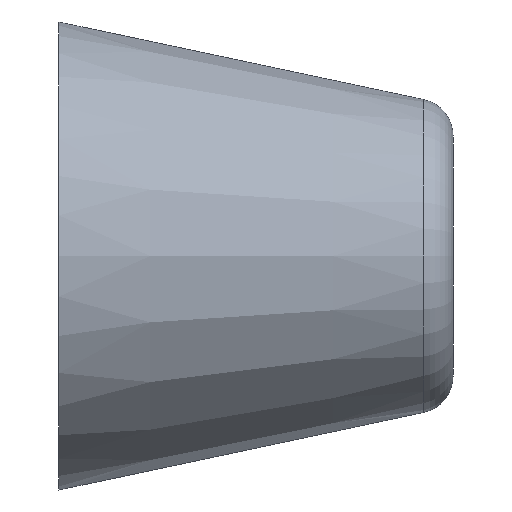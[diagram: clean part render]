
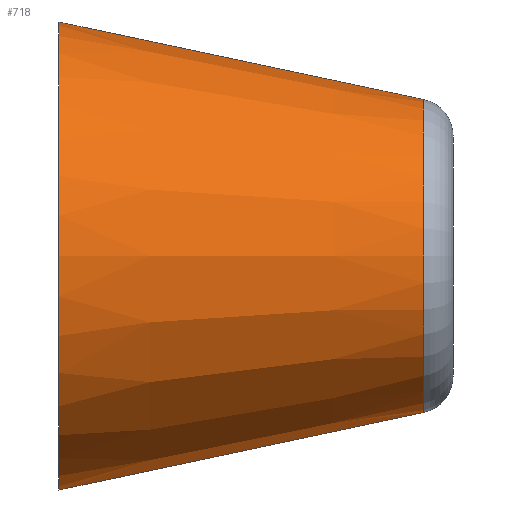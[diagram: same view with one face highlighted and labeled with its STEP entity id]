
A CAD part, left-side view. The second image highlights one B-rep face of the part: STEP entity #718.
In plain terms, the highlighted conical face has half-angle 11.997 degrees and reference radius 6.1 mm.
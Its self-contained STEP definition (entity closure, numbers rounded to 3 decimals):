
#8 = LINE ( 'NONE', #264, #352 ) ;
#31 = EDGE_CURVE ( 'NONE', #621, #316, #242, .T. ) ;
#38 = FACE_OUTER_BOUND ( 'NONE', #329, .T. ) ;
#63 = VERTEX_POINT ( 'NONE', #722 ) ;
#82 = CARTESIAN_POINT ( 'NONE',  ( 0., 16., 9.5 ) ) ;
#88 = CIRCLE ( 'NONE', #253, 6.352 ) ;
#91 = DIRECTION ( 'NONE',  ( 0., 0.978, -0.208 ) ) ;
#99 = AXIS2_PLACEMENT_3D ( 'NONE', #326, #107, #285 ) ;
#107 = DIRECTION ( 'NONE',  ( 0., 1., 0. ) ) ;
#124 = VERTEX_POINT ( 'NONE', #587 ) ;
#134 = VECTOR ( 'NONE', #371, 1000. ) ;
#176 = CONICAL_SURFACE ( 'NONE', #99, 6.1, 0.209 ) ;
#242 = CIRCLE ( 'NONE', #582, 9.5 ) ;
#253 = AXIS2_PLACEMENT_3D ( 'NONE', #679, #675, #670 ) ;
#263 = EDGE_CURVE ( 'NONE', #124, #621, #297, .T. ) ;
#264 = CARTESIAN_POINT ( 'NONE',  ( 0., 0., -6.1 ) ) ;
#285 = DIRECTION ( 'NONE',  ( 0., 0., 1. ) ) ;
#297 = LINE ( 'NONE', #381, #134 ) ;
#316 = VERTEX_POINT ( 'NONE', #342 ) ;
#326 = CARTESIAN_POINT ( 'NONE',  ( 0., 0., 0. ) ) ;
#329 = EDGE_LOOP ( 'NONE', ( #714, #360, #716, #719 ) ) ;
#342 = CARTESIAN_POINT ( 'NONE',  ( 0., 16., -9.5 ) ) ;
#352 = VECTOR ( 'NONE', #91, 1000. ) ;
#360 = ORIENTED_EDGE ( 'NONE', *, *, #663, .T. ) ;
#371 = DIRECTION ( 'NONE',  ( 0., 0.978, 0.208 ) ) ;
#381 = CARTESIAN_POINT ( 'NONE',  ( 0., 0., 6.1 ) ) ;
#582 = AXIS2_PLACEMENT_3D ( 'NONE', #735, #734, #733 ) ;
#587 = CARTESIAN_POINT ( 'NONE',  ( 0., 1.188, 6.352 ) ) ;
#621 = VERTEX_POINT ( 'NONE', #82 ) ;
#663 = EDGE_CURVE ( 'NONE', #63, #124, #88, .T. ) ;
#670 = DIRECTION ( 'NONE',  ( 0., 0., -1. ) ) ;
#675 = DIRECTION ( 'NONE',  ( 0., 1., 0. ) ) ;
#679 = CARTESIAN_POINT ( 'NONE',  ( 0., 1.188, 0. ) ) ;
#714 = ORIENTED_EDGE ( 'NONE', *, *, #739, .F. ) ;
#716 = ORIENTED_EDGE ( 'NONE', *, *, #263, .T. ) ;
#718 = ADVANCED_FACE ( 'NONE', ( #38 ), #176, .T. ) ;
#719 = ORIENTED_EDGE ( 'NONE', *, *, #31, .T. ) ;
#722 = CARTESIAN_POINT ( 'NONE',  ( 0., 1.188, -6.352 ) ) ;
#733 = DIRECTION ( 'NONE',  ( 0., 0., -1. ) ) ;
#734 = DIRECTION ( 'NONE',  ( 0., -1., 0. ) ) ;
#735 = CARTESIAN_POINT ( 'NONE',  ( 0., 16., 0. ) ) ;
#739 = EDGE_CURVE ( 'NONE', #63, #316, #8, .T. ) ;
